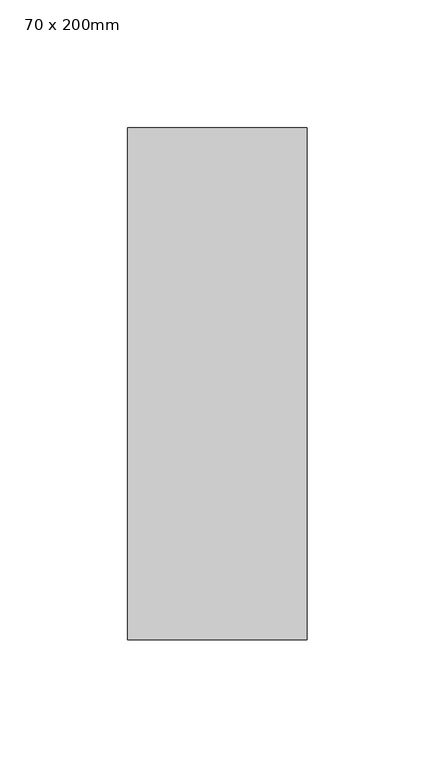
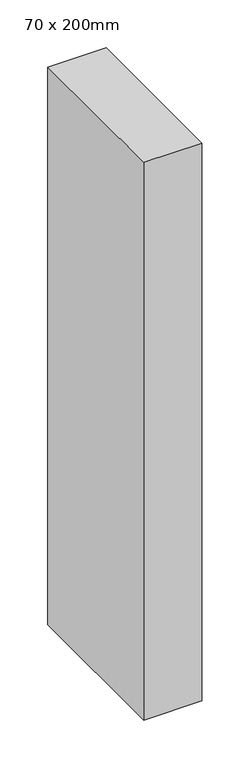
"""IFC4 building model written with IfcOpenShell, lengths in millimetres: member geometry, 矩形竖梃 : 70 x 200mm."""

from ifc_helpers import new_model, si_unit, frame, origin, place, context, project, spatial, polyline, outline, extrude, source, transform, mapped, element, save


def member_70_x_200mm_85eb935a(model_context):
    return source(origin(), model_context, "Body", "SweptSolid", [
        extrude(outline(polyline([(0.0, 100.0), (0.0, -100.0), (-70.0, -100.0), (-70.0, 100.0), (0.0, 100.0)])), frame((0.0, 0.0, -710.0), z_axis=(0.0, 0.0, 1.0), x_axis=(1.0, 0.0, 0.0)), (0.0, 0.0, 1.0), 710.0),
    ])


if __name__ == "__main__":
    model = new_model("IFC4")
    model_context = context("Model", 3, world=origin())
    ifc_project = project(units=[si_unit("LENGTHUNIT", "METRE", prefix="MILLI")], contexts=[model_context])
    site = spatial("IfcSite", under=ifc_project)
    building = spatial("IfcBuilding", under=site)
    placement = place(None, origin())
    member_70_x_200mm_shape = member_70_x_200mm_85eb935a(model_context)
    element("IfcMember", 1, ObjectType="矩形竖梃 : 70 x 200mm", at=placement, inside=building, context=model_context, shape_type="MappedRepresentation", body=[
        mapped(member_70_x_200mm_shape, transform((0.0, 0.0, 0.0), x_axis=(1.0, 0.0, 0.0), y_axis=(0.0, 1.0, 0.0), z_axis=(0.0, 0.0, 1.0))),
    ])
    save(model, "model.ifc")
